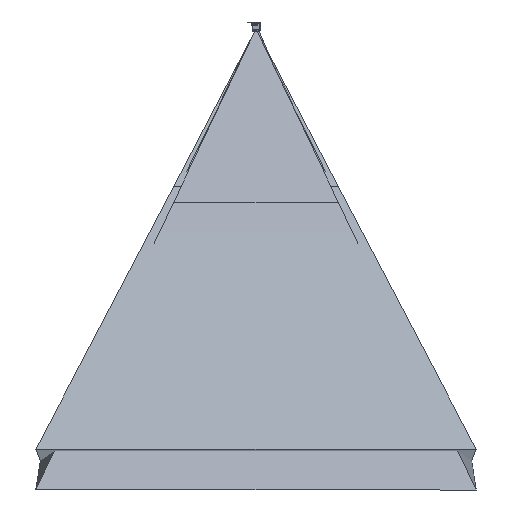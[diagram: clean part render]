
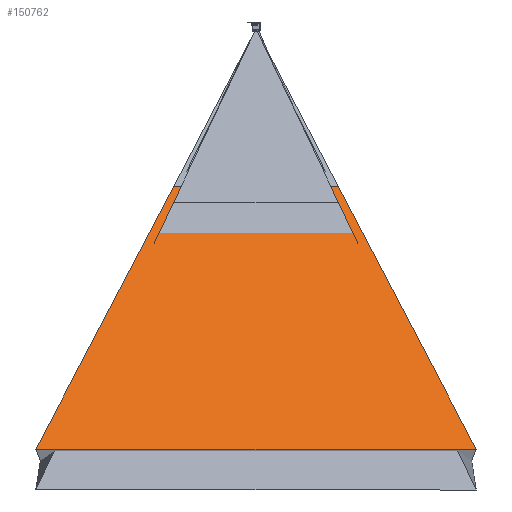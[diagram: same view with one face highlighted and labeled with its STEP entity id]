
A CAD part, left-side view. The second image highlights one B-rep face of the part: STEP entity #150762.
In plain terms, the highlighted planar face has unit normal (-0.791, 0, 0.611).
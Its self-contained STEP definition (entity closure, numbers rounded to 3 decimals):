
#3301 = CARTESIAN_POINT ( 'NONE',  ( -907.603, -537.736, -1420.469 ) ) ;
#4523 = LINE ( 'NONE', #88264, #156819 ) ;
#23482 = ORIENTED_EDGE ( 'NONE', *, *, #149095, .T. ) ;
#23845 = VECTOR ( 'NONE', #122789, 1000. ) ;
#32111 = DIRECTION ( 'NONE',  ( -0.791, 0., 0.611 ) ) ;
#35671 = CARTESIAN_POINT ( 'NONE',  ( -907.603, 962.264, -1420.469 ) ) ;
#36543 = EDGE_LOOP ( 'NONE', ( #40278, #23482, #59501, #153457 ) ) ;
#40278 = ORIENTED_EDGE ( 'NONE', *, *, #42411, .T. ) ;
#42411 = EDGE_CURVE ( 'NONE', #170447, #169357, #237732, .T. ) ;
#51037 = CARTESIAN_POINT ( 'NONE',  ( -907.603, 962.264, -1420.469 ) ) ;
#59501 = ORIENTED_EDGE ( 'NONE', *, *, #63788, .T. ) ;
#63395 = CARTESIAN_POINT ( 'NONE',  ( -2754.108, 2219.017, -3810.993 ) ) ;
#63788 = EDGE_CURVE ( 'NONE', #178392, #231979, #153521, .T. ) ;
#64830 = AXIS2_PLACEMENT_3D ( 'NONE', #127028, #32111, #145892 ) ;
#77265 = CARTESIAN_POINT ( 'NONE',  ( -2754.108, -1794.489, -3810.993 ) ) ;
#85228 = LINE ( 'NONE', #110445, #123307 ) ;
#88264 = CARTESIAN_POINT ( 'NONE',  ( -907.603, 212.264, -1420.469 ) ) ;
#110445 = CARTESIAN_POINT ( 'NONE',  ( -2754.108, 2137.589, -3810.993 ) ) ;
#122789 = DIRECTION ( 'NONE',  ( 0.564, 0.384, 0.731 ) ) ;
#123307 = VECTOR ( 'NONE', #225039, 1000. ) ;
#123614 = CARTESIAN_POINT ( 'NONE',  ( -2754.108, -1794.489, -3810.993 ) ) ;
#125461 = PLANE ( 'NONE',  #64830 ) ;
#127028 = CARTESIAN_POINT ( 'NONE',  ( 192.326, 212.264, 3.524 ) ) ;
#145892 = DIRECTION ( 'NONE',  ( 0.611, 0., 0.791 ) ) ;
#149095 = EDGE_CURVE ( 'NONE', #169357, #178392, #4523, .T. ) ;
#150762 = ADVANCED_FACE ( 'NONE', ( #203162 ), #125461, .T. ) ;
#153457 = ORIENTED_EDGE ( 'NONE', *, *, #163735, .T. ) ;
#153521 = LINE ( 'NONE', #35671, #185732 ) ;
#156819 = VECTOR ( 'NONE', #236553, 1000. ) ;
#163735 = EDGE_CURVE ( 'NONE', #231979, #170447, #85228, .T. ) ;
#166743 = DIRECTION ( 'NONE',  ( -0.564, 0.384, -0.731 ) ) ;
#169357 = VERTEX_POINT ( 'NONE', #3301 ) ;
#170447 = VERTEX_POINT ( 'NONE', #77265 ) ;
#178392 = VERTEX_POINT ( 'NONE', #51037 ) ;
#185732 = VECTOR ( 'NONE', #166743, 1000. ) ;
#203162 = FACE_OUTER_BOUND ( 'NONE', #36543, .T. ) ;
#225039 = DIRECTION ( 'NONE',  ( 0., -1., 0. ) ) ;
#231979 = VERTEX_POINT ( 'NONE', #63395 ) ;
#236553 = DIRECTION ( 'NONE',  ( 0., 1., 0. ) ) ;
#237732 = LINE ( 'NONE', #123614, #23845 ) ;
